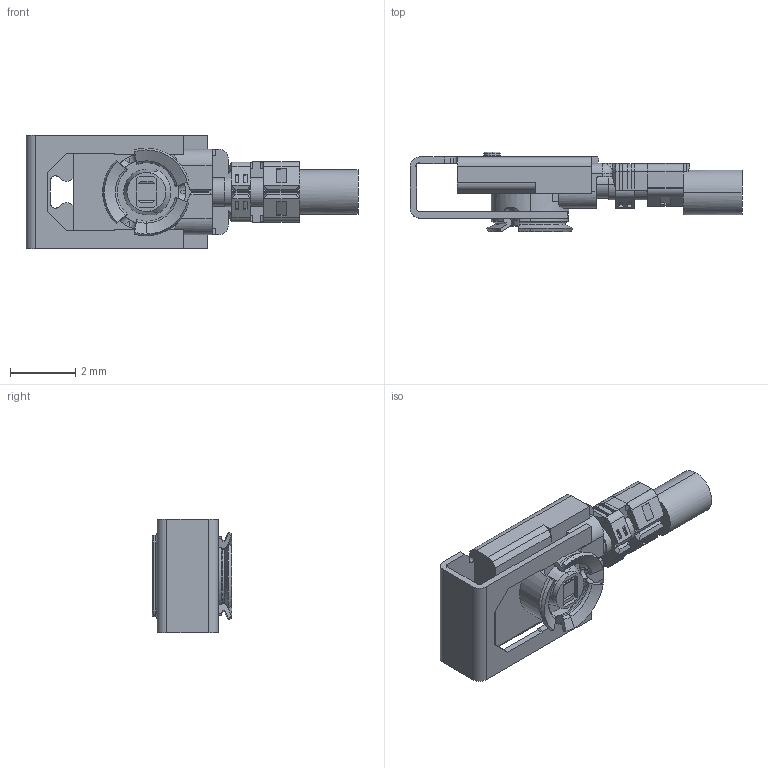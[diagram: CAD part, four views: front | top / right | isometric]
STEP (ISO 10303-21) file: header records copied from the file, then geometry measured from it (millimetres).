
FILE_DESCRIPTION (( 'STEP AP203' ), '1' );
FILE_NAME ('20351-1xxR-37+3376-000xC (UNLOCK) STEP R8R0 ALL.STEP', '2023-11-06T05:31:10', ( '' ), ( '' ), 'SwSTEP 2.0', 'SolidWorks 2023', '' );
FILE_SCHEMA (( 'CONFIG_CONTROL_DESIGN' ));
Length unit declared in the file: millimetre
Products named in the file (1): 20351-1xxR-37+3376-000xC (UNLOCK) STEP R8R0 ALL
Bounding box: 10.2 x 2.45 x 3.5 mm (x, y, z)
Volume: 31.9 mm3; surface area: 130.6 mm2
Topology: 1 solids, 1 shells, 393 faces, 1081 edges, 693 vertices
Faces by surface type: plane 238, cylinder 103, cone 20, torus 16, bspline 14, sphere 2
Entity records: 13111 total; most frequent: CARTESIAN_POINT 3107, ORIENTED_EDGE 2154, DIRECTION 1975, EDGE_CURVE 1077, LINE 747, VECTOR 747, VERTEX_POINT 693, AXIS2_PLACEMENT_3D 614
